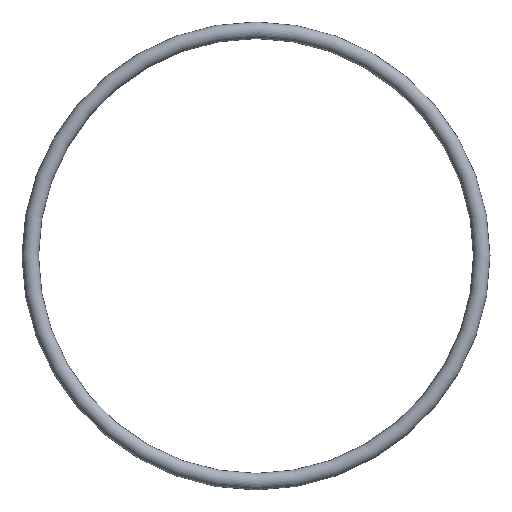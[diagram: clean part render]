
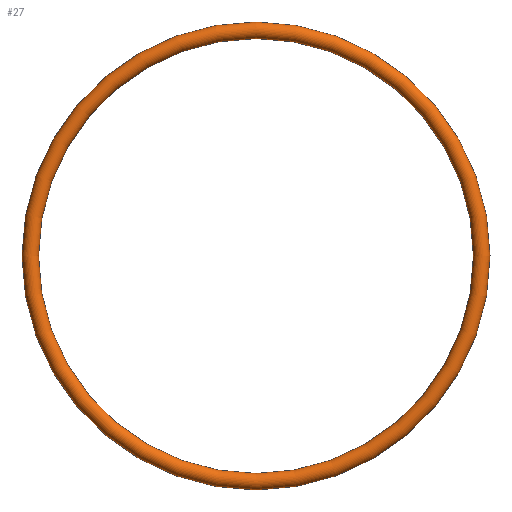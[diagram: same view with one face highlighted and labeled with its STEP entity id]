
A CAD part, top view. The second image highlights one B-rep face of the part: STEP entity #27.
In plain terms, the highlighted toroidal (fillet/blend) face has major radius 54.5 mm and minor radius 2 mm.
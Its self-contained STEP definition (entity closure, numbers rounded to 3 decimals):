
#15=FACE_OUTER_BOUND('',#16,.T.);
#16=EDGE_LOOP('',(#22,#23,#24,#25));
#17=CIRCLE('',#52,2.);
#18=CIRCLE('',#53,52.5);
#19=VERTEX_POINT('',#64);
#20=EDGE_CURVE('',#19,#19,#17,.T.);
#21=EDGE_CURVE('',#19,#19,#18,.T.);
#22=ORIENTED_EDGE('',*,*,#20,.F.);
#23=ORIENTED_EDGE('',*,*,#21,.T.);
#24=ORIENTED_EDGE('',*,*,#20,.T.);
#25=ORIENTED_EDGE('',*,*,#21,.F.);
#26=TOROIDAL_SURFACE('',#51,54.5,2.);
#27=ADVANCED_FACE('',(#15),#26,.T.);
#51=AXIS2_PLACEMENT_3D('',#63,#56,#57);
#52=AXIS2_PLACEMENT_3D('',#65,#58,#59);
#53=AXIS2_PLACEMENT_3D('',#66,#60,#61);
#56=DIRECTION('center_axis',(0.,0.,1.));
#57=DIRECTION('ref_axis',(1.,0.,0.));
#58=DIRECTION('center_axis',(0.,-1.,0.));
#59=DIRECTION('ref_axis',(-1.,0.,0.));
#60=DIRECTION('center_axis',(0.,0.,-1.));
#61=DIRECTION('ref_axis',(1.,0.,0.));
#63=CARTESIAN_POINT('Origin',(0.,0.,0.));
#64=CARTESIAN_POINT('',(-52.5,0.,0.));
#65=CARTESIAN_POINT('Origin',(-54.5,0.,0.));
#66=CARTESIAN_POINT('Origin',(0.,0.,0.));
